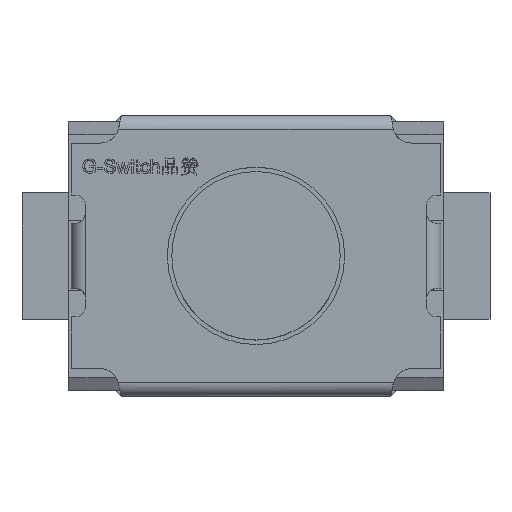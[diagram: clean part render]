
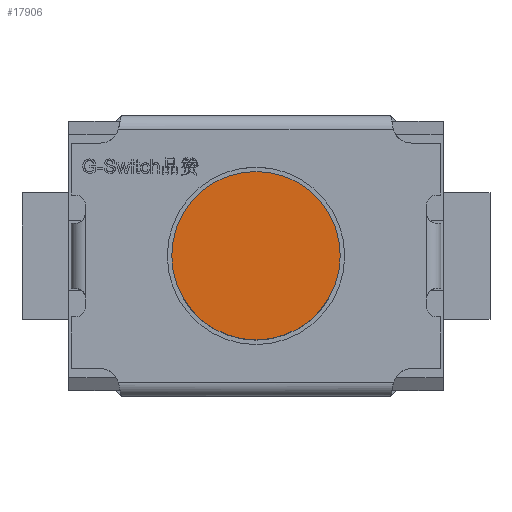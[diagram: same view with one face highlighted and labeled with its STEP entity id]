
A CAD part, top view. The second image highlights one B-rep face of the part: STEP entity #17906.
In plain terms, the highlighted planar face has unit normal (0, 0, 1).
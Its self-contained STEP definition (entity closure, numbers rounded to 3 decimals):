
#121 = EDGE_CURVE ( 'NONE', #588, #1948, #15160, .T. ) ;
#169 = DIRECTION ( 'NONE',  ( 0., 0., 1. ) ) ;
#588 = VERTEX_POINT ( 'NONE', #20278 ) ;
#1948 = VERTEX_POINT ( 'NONE', #13103 ) ;
#2218 = DIRECTION ( 'NONE',  ( 1., 0., 0. ) ) ;
#2965 = EDGE_LOOP ( 'NONE', ( #3521, #16622 ) ) ;
#3521 = ORIENTED_EDGE ( 'NONE', *, *, #121, .T. ) ;
#6774 = CIRCLE ( 'NONE', #9181, 0.9 ) ;
#6810 = DIRECTION ( 'NONE',  ( 1., 0., 0. ) ) ;
#7869 = AXIS2_PLACEMENT_3D ( 'NONE', #15027, #169, #2218 ) ;
#9181 = AXIS2_PLACEMENT_3D ( 'NONE', #18417, #16472, #6810 ) ;
#10401 = CARTESIAN_POINT ( 'NONE',  ( -5.562, 7.1, 2.5 ) ) ;
#12237 = DIRECTION ( 'NONE',  ( 1., 0., 0. ) ) ;
#13103 = CARTESIAN_POINT ( 'NONE',  ( -4.662, 7.1, 2.5 ) ) ;
#15027 = CARTESIAN_POINT ( 'NONE',  ( -5.562, 7.1, 2.5 ) ) ;
#15076 = AXIS2_PLACEMENT_3D ( 'NONE', #10401, #17026, #12237 ) ;
#15160 = CIRCLE ( 'NONE', #7869, 0.9 ) ;
#16472 = DIRECTION ( 'NONE',  ( 0., 0., 1. ) ) ;
#16622 = ORIENTED_EDGE ( 'NONE', *, *, #18169, .T. ) ;
#17026 = DIRECTION ( 'NONE',  ( 0., 0., 1. ) ) ;
#17906 = ADVANCED_FACE ( 'NONE', ( #18657 ), #18764, .T. ) ;
#18169 = EDGE_CURVE ( 'NONE', #1948, #588, #6774, .T. ) ;
#18417 = CARTESIAN_POINT ( 'NONE',  ( -5.562, 7.1, 2.5 ) ) ;
#18657 = FACE_OUTER_BOUND ( 'NONE', #2965, .T. ) ;
#18764 = PLANE ( 'NONE',  #15076 ) ;
#20278 = CARTESIAN_POINT ( 'NONE',  ( -6.462, 7.1, 2.5 ) ) ;
